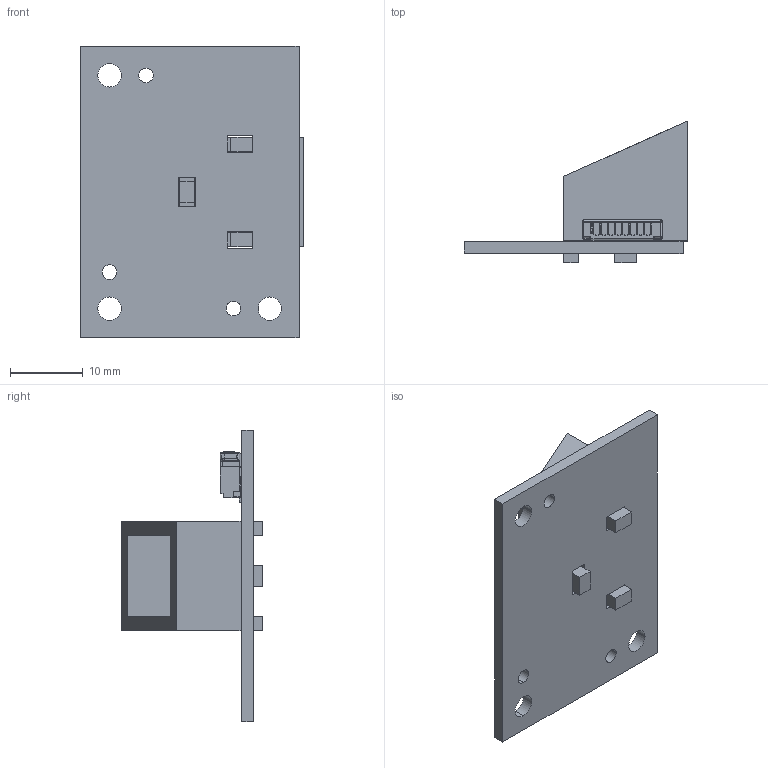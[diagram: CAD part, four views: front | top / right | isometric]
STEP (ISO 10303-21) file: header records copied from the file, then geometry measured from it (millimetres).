
FILE_DESCRIPTION((''),'2;1');
FILE_NAME('SIDE_LED_PCB_ASSY_ASM','2020-08-21T',('G6003023'),(''),'PRO/ENGINEER BY PARAMETRIC TECHNOLOGY CORPORATION, 2013150','PRO/ENGINEER BY PARAMETRIC TECHNOLOGY CORPORATION, 2013150','');
FILE_SCHEMA(('CONFIG_CONTROL_DESIGN'));
Length unit declared in the file: millimetre
Products named in the file (7): SIDE_LED_PCB; LED_EVERLIGHT_R6GHY5C_1_1_1; HS6208E-LH_3D; LIGHT_PIPE_SIDE_LED_16; CONNECTOR_PLUG-8PIN-2; S-87214-0800; SIDE_LED_PCB_ASSY_ASM
Assembly tree (7 placements, depth 2):
  SIDE_LED_PCB_ASSY_ASM
    SIDE_LED_PCB
    LED_EVERLIGHT_R6GHY5C_1_1_1  x2
    HS6208E-LH_3D
    LIGHT_PIPE_SIDE_LED_16
    CONNECTOR_PLUG-8PIN-2
    S-87214-0800
Bounding box: 30.63 x 19.45 x 40 mm (x, y, z)
Volume: 3533.7 mm3; surface area: 5208.1 mm2
Topology: 7 solids, 7 shells, 1240 faces, 3501 edges, 2285 vertices
Faces by surface type: plane 1019, cylinder 215, sphere 6
Entity records: 39070 total; most frequent: CARTESIAN_POINT 6960, ORIENTED_EDGE 6866, DIRECTION 6310, EDGE_CURVE 3433, VECTOR 3012, LINE 3012, VERTEX_POINT 2241, AXIS2_PLACEMENT_3D 1649
